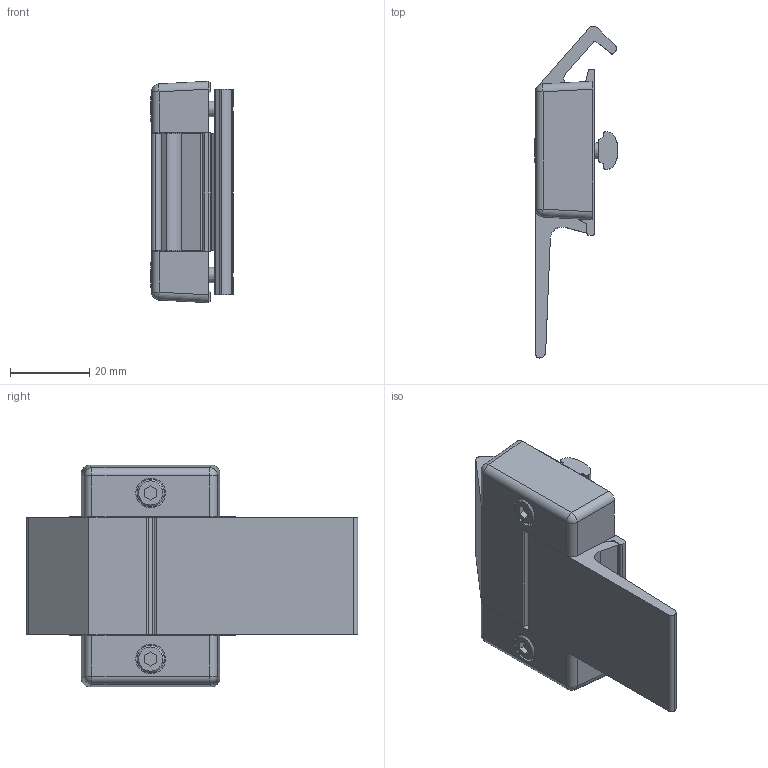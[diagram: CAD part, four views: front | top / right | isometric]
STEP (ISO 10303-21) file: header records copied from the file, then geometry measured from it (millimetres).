
FILE_DESCRIPTION(('STEP AP214'),'1');
FILE_NAME('LA25-L30.stp','2016-11-30T10:23:05',(' '),(' '),'Spatial InterOp 3D',' ',' ');
FILE_SCHEMA(('automotive_design'));
Length unit declared in the file: millimetre
Products named in the file (9): LA25-L30; LA25-L30C; LA25L30B; LA25-L30A; ねじ: 穴付き - M4.0 x 16.0; NFM4-P42; L25D
Assembly tree (8 placements, depth 2):
  LA25-L30
    LA25-L30C
    LA25L30B
    LA25-L30A
    ねじ: 穴付き - M4.0 x 16.0
    ねじ: 穴付き - M4.0 x 16.0
    NFM4-P42
    L25D
    L25D
Bounding box: 20.94 x 83.89 x 56 mm (x, y, z)
Volume: 27601.6 mm3; surface area: 19836.6 mm2
Topology: 8 solids, 8 shells, 224 faces, 584 edges, 380 vertices
Faces by surface type: plane 132, cylinder 84, cone 4, sphere 4
Full cylindrical faces by diameter (mm): 4 x4, 4.5 x2, 6.9 x2, 7.5 x2
Entity records: 8768 total; most frequent: CARTESIAN_POINT 1215, DIRECTION 1192, ORIENTED_EDGE 1128, EDGE_CURVE 564, AXIS2_PLACEMENT_3D 403, LINE 386, VECTOR 386, VERTEX_POINT 378
